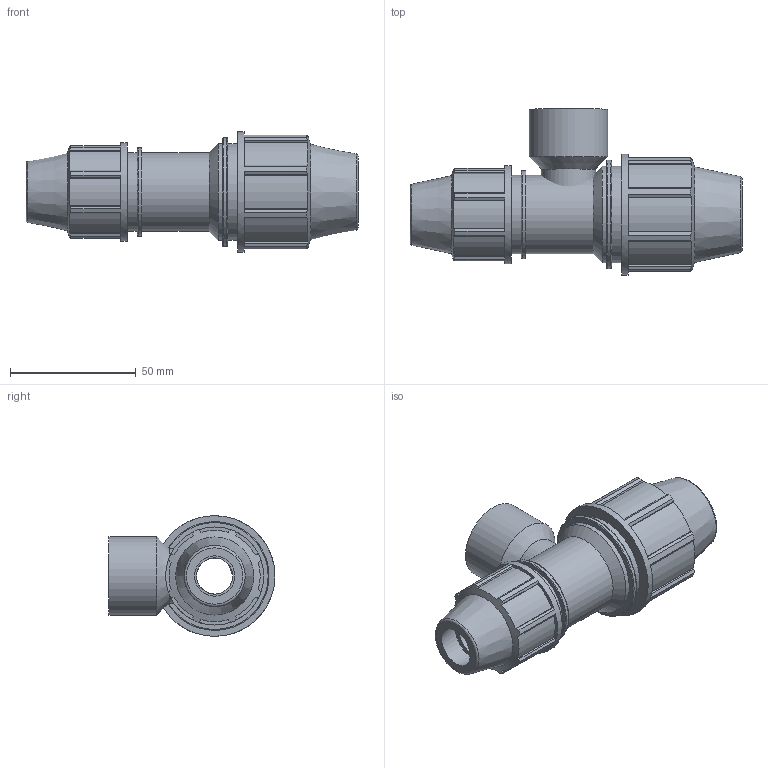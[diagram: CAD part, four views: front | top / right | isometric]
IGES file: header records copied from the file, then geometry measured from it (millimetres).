
Global section: file name: 0714S0020016__0714S60200160A.ipt; native system: Autodesk Inventor 2015; preprocessor: unknown; author: KIM; date: 20170608.042129; units: millimetre
Bounding box: 132 x 66 x 48 mm (x, y, z)
Volume: 114232.2 mm3; surface area: 33903.4 mm2
Topology: 2 solids, 2 shells, 147 faces, 414 edges, 280 vertices
Faces by surface type: plane 96, cylinder 26, revolution 19, cone 6
Full cylindrical faces by diameter (mm): 21.635 x1, 31.2 x2, 31.352 x1, 35.1 x1, 38.4 x2, 39 x1, 43.2 x1, 48 x1
